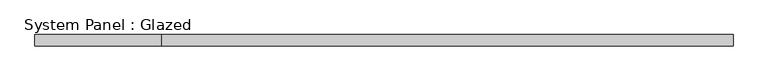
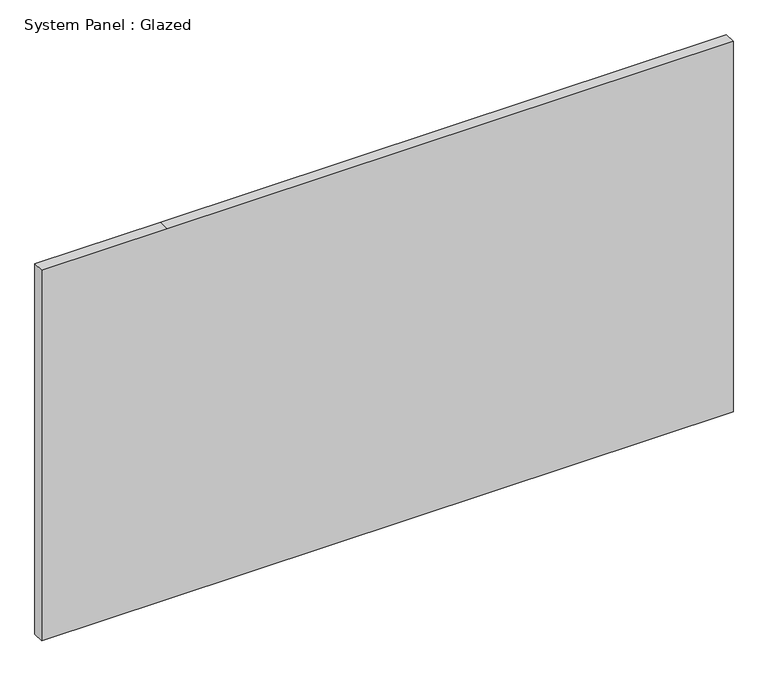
"""IFC4 building model written with IfcOpenShell, lengths in millimetres: plate geometry, System Panel : Glazed."""

from ifc_helpers import new_model, si_unit, frame, origin, place, context, project, spatial, polyline, outline, extrude, source, transform, mapped, element, save


def system_panel_glazed_de38c793(model_context):
    return source(origin(), model_context, "Body", "SweptSolid", [
        extrude(outline(polyline([(0.0, -768.35), (0.0, -488.95), (0.0, 768.35), (869.95, 768.35), (869.95, -488.95), (869.95, -768.35), (0.0, -768.35)])), frame((0.0, -44.45, 0.0), z_axis=(0.0, 1.0, 0.0), x_axis=(0.0, 0.0, 1.0)), (0.0, 0.0, 1.0), 25.4),
    ])


if __name__ == "__main__":
    model = new_model("IFC4")
    model_context = context("Model", 3, world=origin())
    ifc_project = project(units=[si_unit("LENGTHUNIT", "METRE", prefix="MILLI")], contexts=[model_context])
    site = spatial("IfcSite", under=ifc_project)
    building = spatial("IfcBuilding", under=site)
    placement = place(None, origin())
    system_panel_glazed_shape = system_panel_glazed_de38c793(model_context)
    element("IfcPlate", 1, ObjectType="System Panel : Glazed", at=placement, inside=building, context=model_context, shape_type="MappedRepresentation", body=[
        mapped(system_panel_glazed_shape, transform((0.0, 0.0, 0.0), x_axis=(1.0, 0.0, 0.0), y_axis=(0.0, 1.0, 0.0), z_axis=(0.0, 0.0, 1.0))),
    ])
    save(model, "model.ifc")
